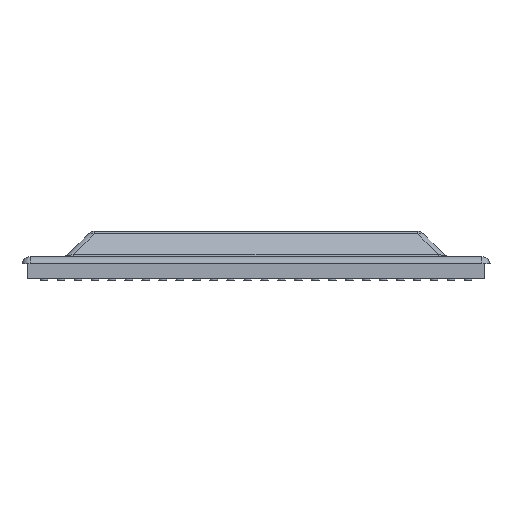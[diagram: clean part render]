
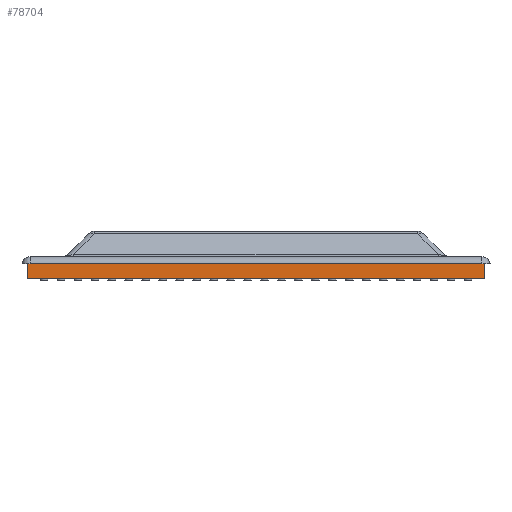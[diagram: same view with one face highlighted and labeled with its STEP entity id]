
A CAD part, left-side view. The second image highlights one B-rep face of the part: STEP entity #78704.
In plain terms, the highlighted planar face has unit normal (-1, 0, 0).
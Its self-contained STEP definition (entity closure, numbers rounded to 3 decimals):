
#124 = VERTEX_POINT ( 'NONE', #53902 ) ;
#3293 = EDGE_CURVE ( 'NONE', #59104, #124, #31290, .T. ) ;
#7810 = CARTESIAN_POINT ( 'NONE',  ( -13.5, 13.5, 0.9 ) ) ;
#12632 = CARTESIAN_POINT ( 'NONE',  ( -13.5, 12.636, 0. ) ) ;
#22631 = EDGE_LOOP ( 'NONE', ( #104308, #53464, #116950, #89381 ) ) ;
#23333 = LINE ( 'NONE', #118105, #58785 ) ;
#24216 = CARTESIAN_POINT ( 'NONE',  ( -13.5, 13.5, 1. ) ) ;
#26670 = LINE ( 'NONE', #24216, #53251 ) ;
#31290 = LINE ( 'NONE', #12632, #80257 ) ;
#37097 = EDGE_CURVE ( 'NONE', #92737, #105308, #103357, .T. ) ;
#43053 = CARTESIAN_POINT ( 'NONE',  ( -13.5, 12.636, 1. ) ) ;
#44184 = VECTOR ( 'NONE', #74761, 1000. ) ;
#46736 = CARTESIAN_POINT ( 'NONE',  ( -13.5, 12.636, 0.9 ) ) ;
#53251 = VECTOR ( 'NONE', #120242, 1000. ) ;
#53464 = ORIENTED_EDGE ( 'NONE', *, *, #37097, .T. ) ;
#53607 = DIRECTION ( 'NONE',  ( 1., 0., 0. ) ) ;
#53902 = CARTESIAN_POINT ( 'NONE',  ( -13.5, -13.5, 0. ) ) ;
#58785 = VECTOR ( 'NONE', #90605, 1000. ) ;
#59104 = VERTEX_POINT ( 'NONE', #105065 ) ;
#72920 = FACE_OUTER_BOUND ( 'NONE', #22631, .T. ) ;
#74761 = DIRECTION ( 'NONE',  ( 0., 1., 0. ) ) ;
#78704 = ADVANCED_FACE ( 'NONE', ( #72920 ), #90382, .F. ) ;
#80257 = VECTOR ( 'NONE', #88584, 1000. ) ;
#85326 = EDGE_CURVE ( 'NONE', #92737, #124, #23333, .T. ) ;
#88584 = DIRECTION ( 'NONE',  ( 0., -1., 0. ) ) ;
#89381 = ORIENTED_EDGE ( 'NONE', *, *, #3293, .T. ) ;
#90128 = EDGE_CURVE ( 'NONE', #105308, #59104, #26670, .T. ) ;
#90382 = PLANE ( 'NONE',  #106777 ) ;
#90605 = DIRECTION ( 'NONE',  ( 0., 0., -1. ) ) ;
#92737 = VERTEX_POINT ( 'NONE', #95869 ) ;
#95869 = CARTESIAN_POINT ( 'NONE',  ( -13.5, -13.5, 0.9 ) ) ;
#103357 = LINE ( 'NONE', #46736, #44184 ) ;
#104308 = ORIENTED_EDGE ( 'NONE', *, *, #85326, .F. ) ;
#105065 = CARTESIAN_POINT ( 'NONE',  ( -13.5, 13.5, 0. ) ) ;
#105308 = VERTEX_POINT ( 'NONE', #7810 ) ;
#106777 = AXIS2_PLACEMENT_3D ( 'NONE', #43053, #53607, #119141 ) ;
#116950 = ORIENTED_EDGE ( 'NONE', *, *, #90128, .T. ) ;
#118105 = CARTESIAN_POINT ( 'NONE',  ( -13.5, -13.5, 1. ) ) ;
#119141 = DIRECTION ( 'NONE',  ( 0., 1., 0. ) ) ;
#120242 = DIRECTION ( 'NONE',  ( 0., 0., -1. ) ) ;
